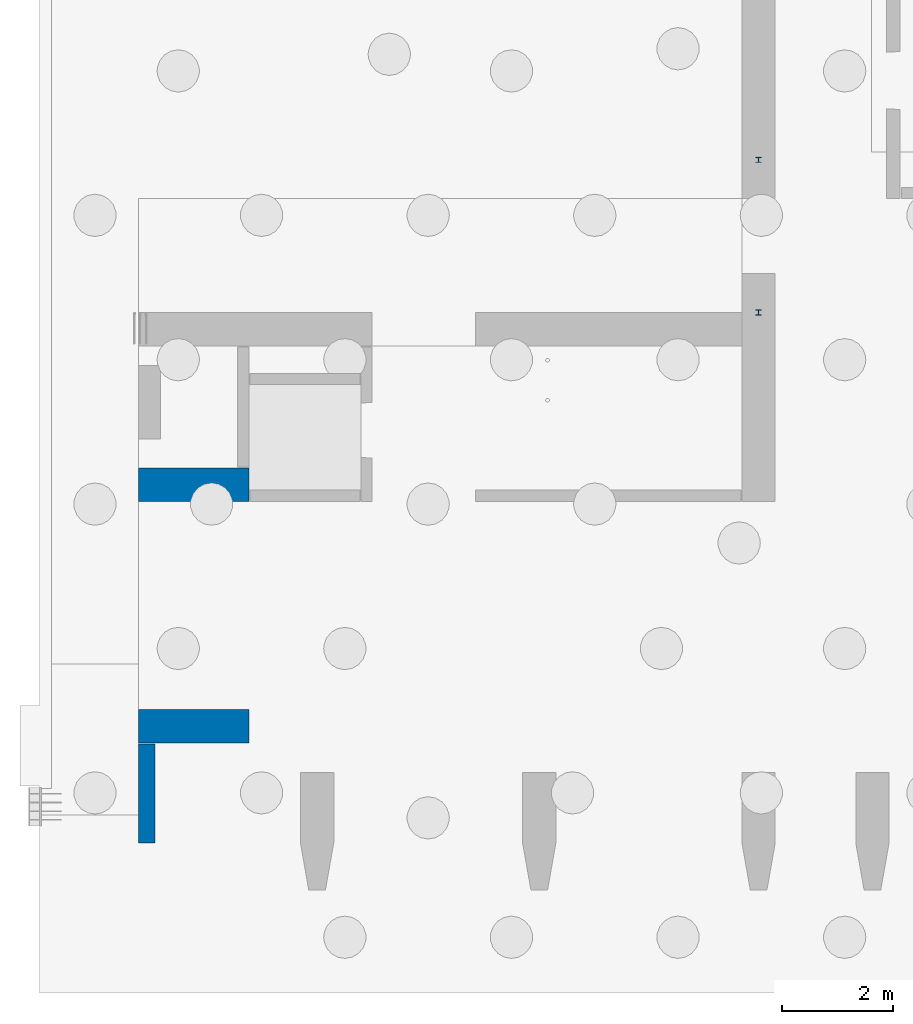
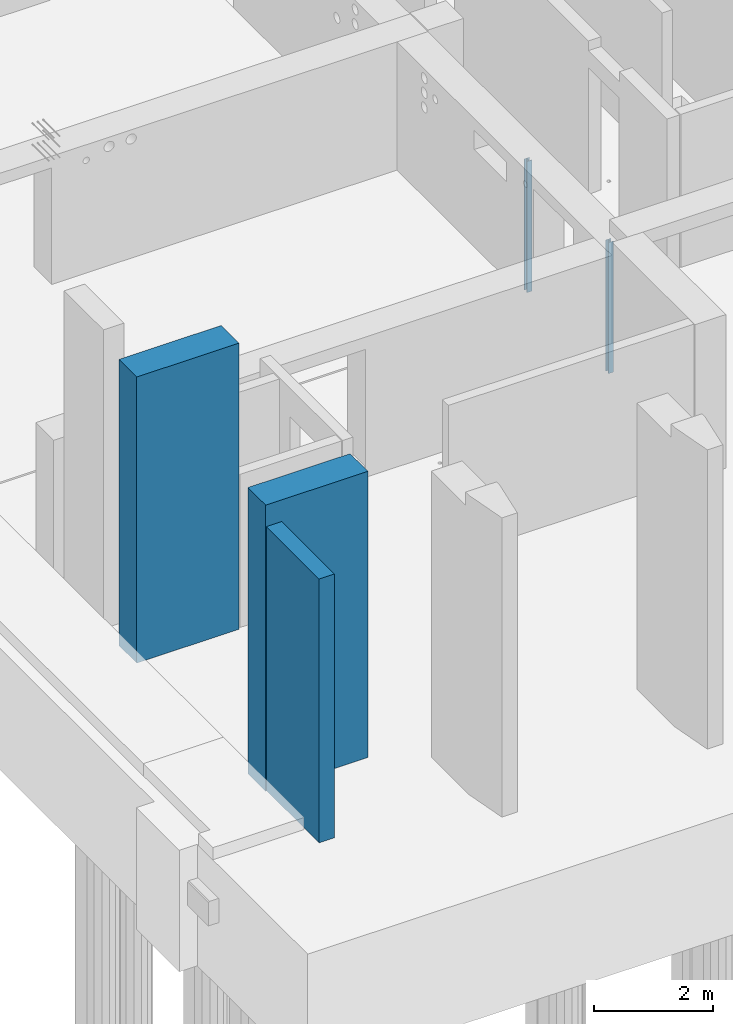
# One storey, part 9 of 26: 5 columns.
"""IFC2X3 building model written with IfcOpenShell, lengths in millimetres."""

from ifc_helpers import new_model, entity, si_unit, converted_unit, derived_unit, direction, frame, frame_2d, origin, origin_2d_with_axis, place, context, subcontext, project, spatial, polyline, circle_curve, parameter, trimmed, segment, composite_curve, rectangle, outline, extrude, source, transform, mapped, material, type_object, type_shapes, element, save


model = new_model("IFC2X3")

# Units and contexts
model_context = context("Model", 3, precision=0.01, world=origin(), true_north=direction((6.12303176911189e-17, 1.0)))
body_context = subcontext(model_context, "Body", "Model", "MODEL_VIEW")
ifc_project = project(units=[si_unit("LENGTHUNIT", "METRE", prefix="MILLI"), si_unit("AREAUNIT", "SQUARE_METRE"), si_unit("VOLUMEUNIT", "CUBIC_METRE"), converted_unit("PLANEANGLEUNIT", "DEGREE", entity("IfcRatioMeasure", 0.0174532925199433), si_unit("PLANEANGLEUNIT", "RADIAN"), dimensions=[0, 0, 0, 0, 0, 0, 0]), si_unit("MASSUNIT", "GRAM", prefix="KILO"), derived_unit("MASSDENSITYUNIT", [(si_unit("MASSUNIT", "GRAM", prefix="KILO"), 1), (si_unit("LENGTHUNIT", "METRE"), -3)]), si_unit("TIMEUNIT", "SECOND"), si_unit("FREQUENCYUNIT", "HERTZ"), si_unit("THERMODYNAMICTEMPERATUREUNIT", "DEGREE_CELSIUS"), derived_unit("THERMALTRANSMITTANCEUNIT", [(si_unit("MASSUNIT", "GRAM", prefix="KILO"), 1), (si_unit("THERMODYNAMICTEMPERATUREUNIT", "KELVIN"), -1), (si_unit("TIMEUNIT", "SECOND"), -3)]), derived_unit("VOLUMETRICFLOWRATEUNIT", [(si_unit("LENGTHUNIT", "METRE"), 3), (si_unit("TIMEUNIT", "SECOND"), -1)]), si_unit("ELECTRICCURRENTUNIT", "AMPERE"), si_unit("ELECTRICVOLTAGEUNIT", "VOLT"), si_unit("POWERUNIT", "WATT"), si_unit("FORCEUNIT", "NEWTON", prefix="KILO"), si_unit("ILLUMINANCEUNIT", "LUX"), si_unit("LUMINOUSFLUXUNIT", "LUMEN"), si_unit("LUMINOUSINTENSITYUNIT", "CANDELA"), derived_unit("USERDEFINED", [(si_unit("MASSUNIT", "GRAM", prefix="KILO"), -1), (si_unit("LENGTHUNIT", "METRE"), -2), (si_unit("TIMEUNIT", "SECOND"), 3), (si_unit("LUMINOUSFLUXUNIT", "LUMEN"), 1)]), derived_unit("LINEARVELOCITYUNIT", [(si_unit("LENGTHUNIT", "METRE"), 1), (si_unit("TIMEUNIT", "SECOND"), -1)]), si_unit("PRESSUREUNIT", "PASCAL"), derived_unit("USERDEFINED", [(si_unit("LENGTHUNIT", "METRE"), -2), (si_unit("MASSUNIT", "GRAM", prefix="KILO"), 1), (si_unit("TIMEUNIT", "SECOND"), -2)])], contexts=[model_context])

# Site, building, storey
site_placement = place(None, origin())
site = spatial("IfcSite", under=ifc_project, at=site_placement, Name="Default", CompositionType="ELEMENT")
building_placement = place(site_placement, origin())
building = spatial("IfcBuilding", under=site, at=building_placement, Name="niet gebruiken", CompositionType="ELEMENT")
storey_placement = place(building_placement, origin())
storey = spatial("IfcBuildingStorey", under=building, at=storey_placement, Name="00 begane grond", CompositionType="ELEMENT", Elevation=0.0)

# Columns
ifc_material_1 = material(Name="NLRS_f2_beton ihwg")
column_type_1 = type_object("IfcColumnType", Name="600x1990", PredefinedType="COLUMN", material=ifc_material_1)
shared_shape_1 = source(origin(), body_context, "Body", "SweptSolid", [
    extrude(rectangle(XDim=600.0, YDim=1990.0, at=origin_2d_with_axis()), frame((125525.0, 3100.0, -250.0), z_axis=(0.0, 0.0, 1.0), x_axis=(0.0, -1.0, 0.0)), (0.0, 0.0, 1.0), 5890.0),
])
type_shapes(column_type_1, [shared_shape_1])
column_1_placement = place(storey_placement, origin())
element("IfcColumn", 1, at=column_1_placement, inside=storey, type_object=column_type_1, material=ifc_material_1, Name="NLRS_28.11_SCO_TLB_beton kolom ihwg_gen:600x1990", ObjectType="600x1990", context=body_context, shape_type="MappedRepresentation", body=[
    mapped(shared_shape_1, transform((0.0, 0.0, 0.0), scale=1.0)),
])
ifc_material_2 = material(Name="NLRS_f2_beton prefab")
column_type_2 = type_object("IfcColumnType", Name="300x1780", PredefinedType="COLUMN", material=ifc_material_2)
shared_shape_2 = source(origin(), body_context, "Body", "SweptSolid", [
    extrude(rectangle(XDim=1780.0, YDim=300.000000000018, at=frame_2d((5.6843418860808e-14, 0.0), x_axis=(1.0, 0.0))), frame((124680.0, 1890.0, -220.0), z_axis=(0.0, 0.0, 1.0), x_axis=(0.0, -1.0, 0.0)), (0.0, 0.0, 1.0), 5430.0),
])
type_shapes(column_type_2, [shared_shape_2])
column_2_placement = place(storey_placement, origin())
element("IfcColumn", 2, at=column_2_placement, inside=storey, type_object=column_type_2, material=ifc_material_2, Name="NLRS_28. kolom vierkant_gen:300x1780", ObjectType="300x1780", context=body_context, shape_type="MappedRepresentation", body=[
    mapped(shared_shape_2, transform((0.0, 0.0, 0.0), scale=1.0)),
])
column_type_3 = type_object("IfcColumnType", Name="600x1990", PredefinedType="COLUMN", material=ifc_material_1)
shared_shape_3 = source(origin(), body_context, "Body", "SweptSolid", [
    extrude(rectangle(XDim=600.0, YDim=1990.0, at=origin_2d_with_axis()), frame((125525.0, 7450.0, -250.0), z_axis=(0.0, 0.0, 1.0), x_axis=(0.0, -1.0, 0.0)), (0.0, 0.0, 1.0), 5890.0),
])
type_shapes(column_type_3, [shared_shape_3])
column_3_placement = place(storey_placement, origin())
element("IfcColumn", 3, at=column_3_placement, inside=storey, type_object=column_type_3, material=ifc_material_1, Name="NLRS_28.11_SCO_TLB_beton kolom ihwg_gen:600x1990", ObjectType="600x1990", context=body_context, shape_type="MappedRepresentation", body=[
    mapped(shared_shape_3, transform((0.0, 0.0, 0.0), scale=1.0)),
])
ifc_material_3 = material(Name="NLRS_h2_staal")
column_type_4 = type_object("IfcColumnType", Name="kolom HEA 100", PredefinedType="COLUMN", material=ifc_material_3)
shared_shape_4 = source(origin(), body_context, "Body", "SweptSolid", [
    extrude(outline(composite_curve([segment(polyline([(40.0, -50.0), (48.0, -50.0)]), True, "CONTINUOUS"), segment(polyline([(48.0, -50.0), (48.0, 50.0)]), True, "CONTINUOUS"), segment(polyline([(48.0, 50.0), (40.0, 50.0)]), True, "CONTINUOUS"), segment(polyline([(40.0, 50.0), (40.0, 14.5)]), True, "CONTINUOUS"), segment(trimmed(circle_curve(frame_2d((28.0, 14.5), x_axis=(1.0, 0.0)), 11.9999999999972), [parameter(269.99999999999)], [parameter(0.0)], True, "PARAMETER"), False, "CONTINUOUS"), segment(polyline([(28.0, 2.5000000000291), (-28.0, 2.5000000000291)]), True, "CONTINUOUS"), segment(trimmed(circle_curve(frame_2d((-28.0, 14.5), x_axis=(0.0, -1.0)), 11.9999999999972), [parameter(269.99999999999)], [parameter(0.0)], True, "PARAMETER"), False, "CONTINUOUS"), segment(polyline([(-40.0, 14.5), (-40.0, 50.0)]), True, "CONTINUOUS"), segment(polyline([(-40.0, 50.0), (-48.0, 50.0)]), True, "CONTINUOUS"), segment(polyline([(-48.0, 50.0), (-48.0, -50.0)]), True, "CONTINUOUS"), segment(polyline([(-48.0, -50.0), (-40.0, -50.0)]), True, "CONTINUOUS"), segment(polyline([(-40.0, -50.0), (-40.0, -14.4999999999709)]), True, "CONTINUOUS"), segment(trimmed(circle_curve(frame_2d((-28.0, -14.5), x_axis=(-1.0, 0.0)), 11.9999999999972), [parameter(269.99999999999)], [parameter(0.0)], True, "PARAMETER"), False, "CONTINUOUS"), segment(polyline([(-28.0, -2.4999999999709), (28.0, -2.4999999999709)]), True, "CONTINUOUS"), segment(trimmed(circle_curve(frame_2d((28.0, -14.5), x_axis=(0.0, 1.0)), 11.9999999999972), [parameter(269.99999999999)], [parameter(0.0)], True, "PARAMETER"), False, "CONTINUOUS"), segment(polyline([(40.0, -14.5), (40.0, -50.0)]), True, "CONTINUOUS")], self_intersect=False)), frame((135700.0, 10550.0, -220.0), z_axis=(0.0, 0.0, 1.0), x_axis=(0.0, -1.0, 0.0)), (0.0, 0.0, 1.0), 2700.0),
])
type_shapes(column_type_4, [shared_shape_4])
column_4_placement = place(storey_placement, origin())
element("IfcColumn", 4, at=column_4_placement, inside=storey, type_object=column_type_4, material=ifc_material_3, Name="NLRS_28.11_SCO_TLB_stalen kolom HEA_gen:kolom HEA 100", ObjectType="kolom HEA 100", context=body_context, shape_type="MappedRepresentation", body=[
    mapped(shared_shape_4, transform((0.0, 0.0, 0.0), scale=1.0)),
])
column_type_5 = type_object("IfcColumnType", Name="kolom HEA 100", PredefinedType="COLUMN", material=ifc_material_3)
shared_shape_5 = source(origin(), body_context, "Body", "SweptSolid", [
    extrude(outline(composite_curve([segment(polyline([(40.0, -50.0), (48.0, -50.0)]), True, "CONTINUOUS"), segment(polyline([(48.0, -50.0), (48.0, 50.0)]), True, "CONTINUOUS"), segment(polyline([(48.0, 50.0), (40.0, 50.0)]), True, "CONTINUOUS"), segment(polyline([(40.0, 50.0), (40.0, 14.5000000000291)]), True, "CONTINUOUS"), segment(trimmed(circle_curve(frame_2d((28.0, 14.5000000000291), x_axis=(1.0, 0.0)), 11.9999999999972), [parameter(269.99999999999)], [parameter(0.0)], True, "PARAMETER"), False, "CONTINUOUS"), segment(polyline([(28.0, 2.5000000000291), (-28.0, 2.5000000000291)]), True, "CONTINUOUS"), segment(trimmed(circle_curve(frame_2d((-28.0, 14.5000000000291), x_axis=(0.0, -1.0)), 11.9999999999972), [parameter(269.99999999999)], [parameter(0.0)], True, "PARAMETER"), False, "CONTINUOUS"), segment(polyline([(-40.0, 14.5000000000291), (-40.0, 50.0)]), True, "CONTINUOUS"), segment(polyline([(-40.0, 50.0), (-48.0, 50.0)]), True, "CONTINUOUS"), segment(polyline([(-48.0, 50.0), (-48.0, -50.0)]), True, "CONTINUOUS"), segment(polyline([(-48.0, -50.0), (-40.0, -50.0)]), True, "CONTINUOUS"), segment(polyline([(-40.0, -50.0), (-40.0, -14.4999999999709)]), True, "CONTINUOUS"), segment(trimmed(circle_curve(frame_2d((-28.0, -14.4999999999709), x_axis=(-1.0, 0.0)), 11.9999999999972), [parameter(269.99999999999)], [parameter(0.0)], True, "PARAMETER"), False, "CONTINUOUS"), segment(polyline([(-28.0, -2.4999999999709), (28.0, -2.4999999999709)]), True, "CONTINUOUS"), segment(trimmed(circle_curve(frame_2d((28.0, -14.4999999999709), x_axis=(0.0, 1.0)), 11.9999999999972), [parameter(269.99999999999)], [parameter(0.0)], True, "PARAMETER"), False, "CONTINUOUS"), segment(polyline([(40.0, -14.4999999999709), (40.0, -50.0)]), True, "CONTINUOUS")], self_intersect=False)), frame((135700.0, 13300.0, -220.0), z_axis=(0.0, 0.0, 1.0), x_axis=(0.0, -1.0, 0.0)), (0.0, 0.0, 1.0), 2700.0),
])
type_shapes(column_type_5, [shared_shape_5])
column_5_placement = place(storey_placement, origin())
element("IfcColumn", 5, at=column_5_placement, inside=storey, type_object=column_type_5, material=ifc_material_3, Name="NLRS_28.11_SCO_TLB_stalen kolom HEA_gen:kolom HEA 100", ObjectType="kolom HEA 100", context=body_context, shape_type="MappedRepresentation", body=[
    mapped(shared_shape_5, transform((0.0, 0.0, 0.0), scale=1.0)),
])

save(model, "model.ifc")
